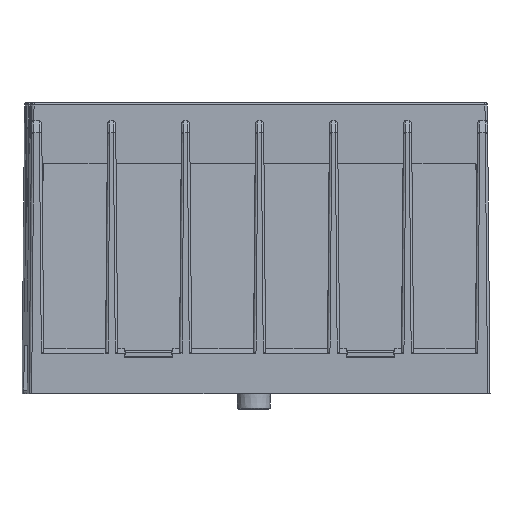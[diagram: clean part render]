
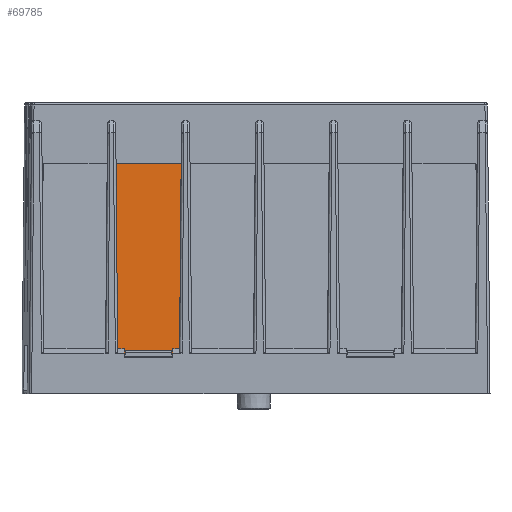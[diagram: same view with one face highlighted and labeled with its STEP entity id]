
A CAD part, front view. The second image highlights one B-rep face of the part: STEP entity #69785.
In plain terms, the highlighted planar face has unit normal (0.008, -0.999, 0.035).
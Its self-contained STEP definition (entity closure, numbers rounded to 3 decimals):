
#392 = CARTESIAN_POINT ( 'NONE',  ( -6.238, -37.1, -0.286 ) ) ;
#473 = EDGE_CURVE ( 'NONE', #911, #25996, #50444, .T. ) ;
#911 = VERTEX_POINT ( 'NONE', #56246 ) ;
#948 = VERTEX_POINT ( 'NONE', #21913 ) ;
#999 = LINE ( 'NONE', #17660, #31515 ) ;
#1199 = CARTESIAN_POINT ( 'NONE',  ( -18.11, -36.66, 15.014 ) ) ;
#1454 = DIRECTION ( 'NONE',  ( 0.008, -0.999, 0.035 ) ) ;
#2236 = ORIENTED_EDGE ( 'NONE', *, *, #56857, .F. ) ;
#2776 = VERTEX_POINT ( 'NONE', #50597 ) ;
#3037 = CARTESIAN_POINT ( 'NONE',  ( -6.109, -36.565, 15.014 ) ) ;
#3288 = ORIENTED_EDGE ( 'NONE', *, *, #15951, .T. ) ;
#3377 = CARTESIAN_POINT ( 'NONE',  ( -10.791, -37.136, -0.286 ) ) ;
#3724 = DIRECTION ( 'NONE',  ( 0., 0.035, 0.999 ) ) ;
#5259 = EDGE_CURVE ( 'NONE', #45495, #55063, #27446, .T. ) ;
#5764 = CARTESIAN_POINT ( 'NONE',  ( -6.87, -37.11, -0.422 ) ) ;
#6425 = CARTESIAN_POINT ( 'NONE',  ( -6.791, -37.105, -0.286 ) ) ;
#7903 = VERTEX_POINT ( 'NONE', #33842 ) ;
#10476 = ORIENTED_EDGE ( 'NONE', *, *, #473, .T. ) ;
#12489 = DIRECTION ( 'NONE',  ( -1., -0.008, 0. ) ) ;
#12751 = PLANE ( 'NONE',  #49738 ) ;
#13151 = CARTESIAN_POINT ( 'NONE',  ( -11.527, -36.436, 19.941 ) ) ;
#13396 = DIRECTION ( 'NONE',  ( 0., -0.035, -0.999 ) ) ;
#14517 = VERTEX_POINT ( 'NONE', #45810 ) ;
#15810 = LINE ( 'NONE', #13151, #44546 ) ;
#15951 = EDGE_CURVE ( 'NONE', #45495, #66475, #41916, .T. ) ;
#16161 = ORIENTED_EDGE ( 'NONE', *, *, #32752, .T. ) ;
#16245 = LINE ( 'NONE', #57814, #29731 ) ;
#16317 = VERTEX_POINT ( 'NONE', #63407 ) ;
#16333 = ORIENTED_EDGE ( 'NONE', *, *, #62609, .T. ) ;
#17014 = CARTESIAN_POINT ( 'NONE',  ( 19.358, -36.897, -0.286 ) ) ;
#17660 = CARTESIAN_POINT ( 'NONE',  ( -10.743, -37.267, -4.051 ) ) ;
#19169 = DIRECTION ( 'NONE',  ( -0.009, 0.035, 0.999 ) ) ;
#19926 = VECTOR ( 'NONE', #3724, 1000. ) ;
#21745 = VECTOR ( 'NONE', #34757, 1000. ) ;
#21913 = CARTESIAN_POINT ( 'NONE',  ( -10.791, -37.161, -0.986 ) ) ;
#22232 = DIRECTION ( 'NONE',  ( 1., 0.008, 0. ) ) ;
#22259 = EDGE_CURVE ( 'NONE', #55385, #948, #61651, .T. ) ;
#22267 = EDGE_CURVE ( 'NONE', #7903, #66475, #15810, .T. ) ;
#22771 = DIRECTION ( 'NONE',  ( 1., 0.008, 0. ) ) ;
#23169 = DIRECTION ( 'NONE',  ( -0.008, -0.035, -0.999 ) ) ;
#23203 = LINE ( 'NONE', #36153, #53784 ) ;
#23582 = CARTESIAN_POINT ( 'NONE',  ( -11.483, -36.608, 15.014 ) ) ;
#25996 = VERTEX_POINT ( 'NONE', #6425 ) ;
#26625 = CARTESIAN_POINT ( 'NONE',  ( -18.106, -37.199, -0.422 ) ) ;
#27446 = LINE ( 'NONE', #58393, #73384 ) ;
#27618 = ORIENTED_EDGE ( 'NONE', *, *, #33736, .T. ) ;
#27784 = ORIENTED_EDGE ( 'NONE', *, *, #44717, .F. ) ;
#29008 = CARTESIAN_POINT ( 'NONE',  ( -6.839, -37.231, -3.888 ) ) ;
#29731 = VECTOR ( 'NONE', #69476, 1000. ) ;
#29757 = DIRECTION ( 'NONE',  ( -0.008, -0.035, -0.999 ) ) ;
#30851 = ORIENTED_EDGE ( 'NONE', *, *, #62597, .F. ) ;
#31101 = VECTOR ( 'NONE', #13396, 1000. ) ;
#31515 = VECTOR ( 'NONE', #23169, 1000. ) ;
#32297 = CARTESIAN_POINT ( 'NONE',  ( -6.789, -37.388, -8.412 ) ) ;
#32752 = EDGE_CURVE ( 'NONE', #948, #911, #64831, .T. ) ;
#33437 = LINE ( 'NONE', #17014, #62250 ) ;
#33736 = EDGE_CURVE ( 'NONE', #16317, #14517, #23203, .T. ) ;
#33842 = CARTESIAN_POINT ( 'NONE',  ( -11.345, -37.141, -0.286 ) ) ;
#33963 = ORIENTED_EDGE ( 'NONE', *, *, #22259, .T. ) ;
#34757 = DIRECTION ( 'NONE',  ( -0.009, 0.035, 0.999 ) ) ;
#35817 = CARTESIAN_POINT ( 'NONE',  ( -18.105, -37.324, -3.986 ) ) ;
#35896 = DIRECTION ( 'NONE',  ( -1., -0.008, 0. ) ) ;
#36153 = CARTESIAN_POINT ( 'NONE',  ( -18.106, -37.216, -0.886 ) ) ;
#37058 = LINE ( 'NONE', #29008, #21745 ) ;
#37624 = ORIENTED_EDGE ( 'NONE', *, *, #5259, .F. ) ;
#39806 = LINE ( 'NONE', #26625, #53346 ) ;
#41598 = DIRECTION ( 'NONE',  ( 0., 0.035, 0.999 ) ) ;
#41621 = FACE_BOUND ( 'NONE', #73076, .T. ) ;
#41916 = LINE ( 'NONE', #1199, #70788 ) ;
#43156 = ORIENTED_EDGE ( 'NONE', *, *, #22267, .F. ) ;
#44505 = ORIENTED_EDGE ( 'NONE', *, *, #53264, .T. ) ;
#44546 = VECTOR ( 'NONE', #19169, 1000. ) ;
#44717 = EDGE_CURVE ( 'NONE', #16317, #57649, #37058, .T. ) ;
#45495 = VERTEX_POINT ( 'NONE', #3037 ) ;
#45810 = CARTESIAN_POINT ( 'NONE',  ( -10.716, -37.157, -0.886 ) ) ;
#47771 = CARTESIAN_POINT ( 'NONE',  ( -10.789, -37.42, -8.412 ) ) ;
#49483 = VECTOR ( 'NONE', #22232, 1000. ) ;
#49738 = AXIS2_PLACEMENT_3D ( 'NONE', #35817, #1454, #41598 ) ;
#50444 = LINE ( 'NONE', #32297, #19926 ) ;
#50597 = CARTESIAN_POINT ( 'NONE',  ( -10.713, -37.141, -0.422 ) ) ;
#50860 = CARTESIAN_POINT ( 'NONE',  ( 19.358, -36.921, -0.986 ) ) ;
#53264 = EDGE_CURVE ( 'NONE', #7903, #55385, #33437, .T. ) ;
#53346 = VECTOR ( 'NONE', #55481, 1000. ) ;
#53784 = VECTOR ( 'NONE', #35896, 1000. ) ;
#55063 = VERTEX_POINT ( 'NONE', #392 ) ;
#55100 = FACE_OUTER_BOUND ( 'NONE', #55270, .T. ) ;
#55270 = EDGE_LOOP ( 'NONE', ( #37624, #3288, #43156, #44505, #33963, #16161, #10476, #16333 ) ) ;
#55385 = VERTEX_POINT ( 'NONE', #3377 ) ;
#55481 = DIRECTION ( 'NONE',  ( -1., -0.008, 0. ) ) ;
#56246 = CARTESIAN_POINT ( 'NONE',  ( -6.791, -37.129, -0.986 ) ) ;
#56857 = EDGE_CURVE ( 'NONE', #57649, #2776, #39806, .T. ) ;
#57649 = VERTEX_POINT ( 'NONE', #5764 ) ;
#57814 = CARTESIAN_POINT ( 'NONE',  ( 19.358, -36.897, -0.286 ) ) ;
#58393 = CARTESIAN_POINT ( 'NONE',  ( -6.067, -36.392, 19.941 ) ) ;
#61651 = LINE ( 'NONE', #47771, #31101 ) ;
#62250 = VECTOR ( 'NONE', #22771, 1000. ) ;
#62597 = EDGE_CURVE ( 'NONE', #2776, #14517, #999, .T. ) ;
#62609 = EDGE_CURVE ( 'NONE', #25996, #55063, #16245, .T. ) ;
#63407 = CARTESIAN_POINT ( 'NONE',  ( -6.866, -37.126, -0.886 ) ) ;
#64831 = LINE ( 'NONE', #50860, #49483 ) ;
#66475 = VERTEX_POINT ( 'NONE', #23582 ) ;
#69476 = DIRECTION ( 'NONE',  ( 1., 0.008, 0. ) ) ;
#69785 = ADVANCED_FACE ( 'NONE', ( #41621, #55100 ), #12751, .T. ) ;
#70788 = VECTOR ( 'NONE', #12489, 1000. ) ;
#73076 = EDGE_LOOP ( 'NONE', ( #2236, #27784, #27618, #30851 ) ) ;
#73384 = VECTOR ( 'NONE', #29757, 1000. ) ;
